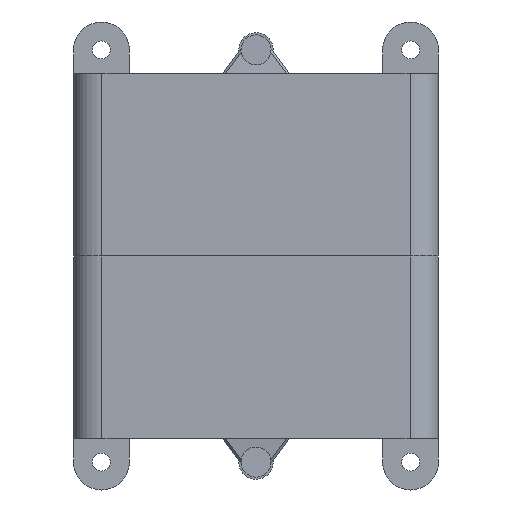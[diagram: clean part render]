
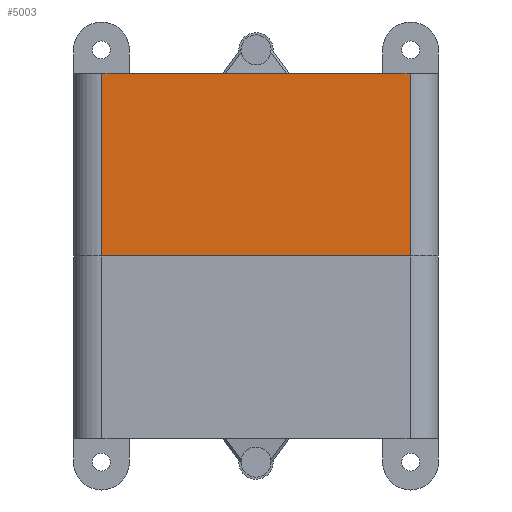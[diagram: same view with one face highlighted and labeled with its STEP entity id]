
A CAD part, front view. The second image highlights one B-rep face of the part: STEP entity #5003.
In plain terms, the highlighted planar face has unit normal (0, -1, 0).
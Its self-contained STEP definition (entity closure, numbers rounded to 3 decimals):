
#2015 = FACE_OUTER_BOUND ( 'NONE', #49714, .T. ) ;
#3267 = DIRECTION ( 'NONE',  ( 1., 0., 0. ) ) ;
#3386 = DIRECTION ( 'NONE',  ( 1., 0., 0. ) ) ;
#4063 = CARTESIAN_POINT ( 'NONE',  ( 42.5, 0., 0. ) ) ;
#5003 = ADVANCED_FACE ( 'NONE', ( #2015 ), #30392, .F. ) ;
#5005 = EDGE_CURVE ( 'NONE', #27352, #47472, #30132, .T. ) ;
#8117 = ORIENTED_EDGE ( 'NONE', *, *, #17566, .T. ) ;
#8198 = LINE ( 'NONE', #48911, #19699 ) ;
#9304 = AXIS2_PLACEMENT_3D ( 'NONE', #25836, #42197, #10312 ) ;
#9308 = ORIENTED_EDGE ( 'NONE', *, *, #5005, .T. ) ;
#9778 = DIRECTION ( 'NONE',  ( 0., 0., -1. ) ) ;
#10312 = DIRECTION ( 'NONE',  ( 0., 0., 1. ) ) ;
#15871 = LINE ( 'NONE', #4063, #25886 ) ;
#17530 = LINE ( 'NONE', #37124, #23318 ) ;
#17566 = EDGE_CURVE ( 'NONE', #30899, #20889, #17530, .T. ) ;
#19699 = VECTOR ( 'NONE', #3386, 1000. ) ;
#20889 = VERTEX_POINT ( 'NONE', #51012 ) ;
#23318 = VECTOR ( 'NONE', #41410, 1000. ) ;
#24984 = CARTESIAN_POINT ( 'NONE',  ( 36., 0., 0. ) ) ;
#25836 = CARTESIAN_POINT ( 'NONE',  ( 42.5, 0., 42.5 ) ) ;
#25886 = VECTOR ( 'NONE', #3267, 1000. ) ;
#26932 = CARTESIAN_POINT ( 'NONE',  ( -36., 0., 0. ) ) ;
#27352 = VERTEX_POINT ( 'NONE', #44356 ) ;
#29611 = CARTESIAN_POINT ( 'NONE',  ( -36., 0., 0. ) ) ;
#30132 = LINE ( 'NONE', #29611, #31543 ) ;
#30392 = PLANE ( 'NONE',  #9304 ) ;
#30899 = VERTEX_POINT ( 'NONE', #24984 ) ;
#31543 = VECTOR ( 'NONE', #9778, 1000. ) ;
#33193 = EDGE_CURVE ( 'NONE', #27352, #20889, #8198, .T. ) ;
#37124 = CARTESIAN_POINT ( 'NONE',  ( 36., 0., 42.5 ) ) ;
#41410 = DIRECTION ( 'NONE',  ( 0., 0., 1. ) ) ;
#42197 = DIRECTION ( 'NONE',  ( 0., 1., 0. ) ) ;
#42914 = EDGE_CURVE ( 'NONE', #47472, #30899, #15871, .T. ) ;
#44356 = CARTESIAN_POINT ( 'NONE',  ( -36., 0., 42.5 ) ) ;
#47472 = VERTEX_POINT ( 'NONE', #26932 ) ;
#48911 = CARTESIAN_POINT ( 'NONE',  ( 42.5, 0., 42.5 ) ) ;
#49679 = ORIENTED_EDGE ( 'NONE', *, *, #42914, .T. ) ;
#49714 = EDGE_LOOP ( 'NONE', ( #49679, #8117, #50189, #9308 ) ) ;
#50189 = ORIENTED_EDGE ( 'NONE', *, *, #33193, .F. ) ;
#51012 = CARTESIAN_POINT ( 'NONE',  ( 36., 0., 42.5 ) ) ;
